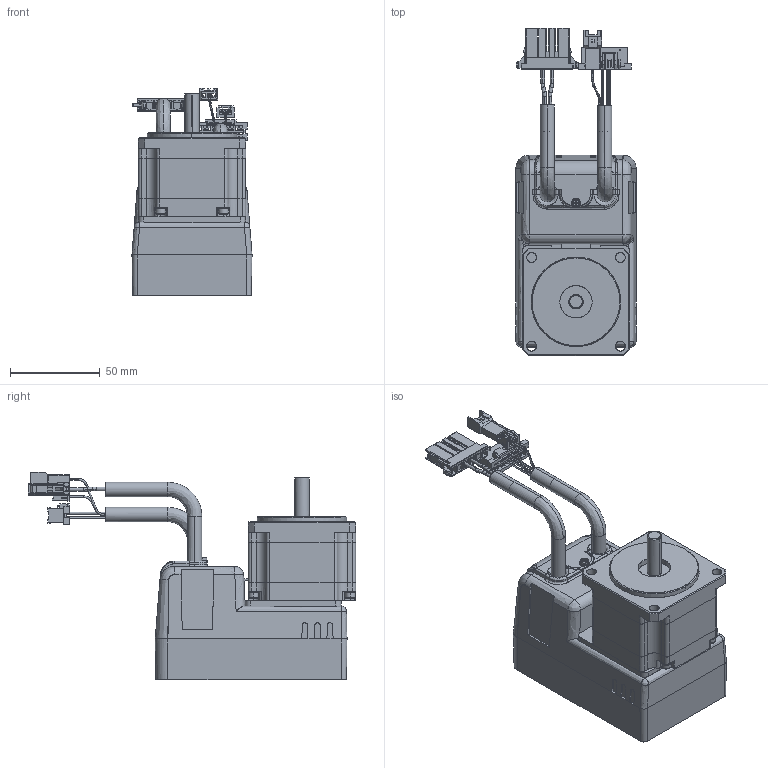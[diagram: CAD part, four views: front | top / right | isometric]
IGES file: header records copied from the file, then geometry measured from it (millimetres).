
Start section: SolidWorks IGES file using analytic representation for surfaces
Global section: file name: C:\Documents and Settings\3DCAD\デスクトップ\ダオドー様用3D\CM2-□-60A10Atest.IGS; native system: SolidWorks 2010; preprocessor: SolidWorks 2010; author: 3DCAD; date: 100827.143640; units: millimetre
Bounding box: 67 x 182.6 x 115.82 mm (x, y, z)
Surface area: 76055.3 mm2 (no closed solid volume)
Topology: 0 solids, 0 shells, 1551 faces, 13987 edges, 13979 vertices
Faces by surface type: bspline 1175, revolution 376
